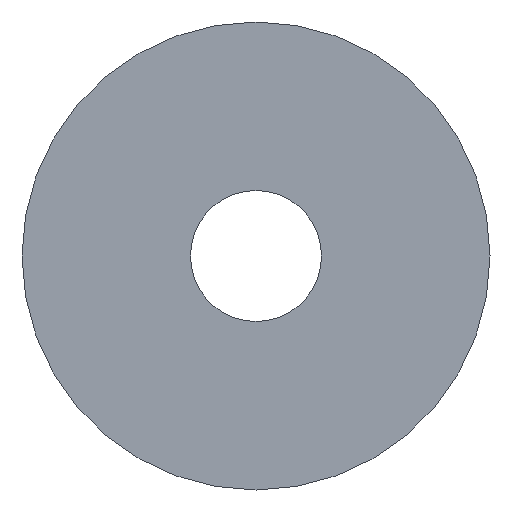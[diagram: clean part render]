
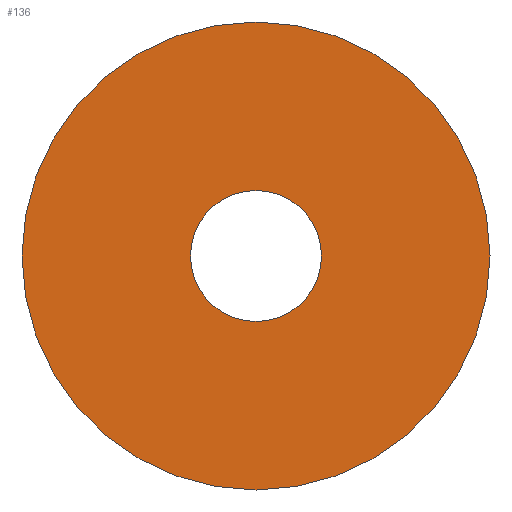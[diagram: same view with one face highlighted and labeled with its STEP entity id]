
A CAD part, front view. The second image highlights one B-rep face of the part: STEP entity #136.
In plain terms, the highlighted planar face has unit normal (0, -1, 0).
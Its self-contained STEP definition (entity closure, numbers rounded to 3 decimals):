
#8 = DIRECTION ( 'NONE',  ( 0., 0., 1. ) ) ;
#10 = VERTEX_POINT ( 'NONE', #41 ) ;
#11 = DIRECTION ( 'NONE',  ( 0., 0., 1. ) ) ;
#23 = DIRECTION ( 'NONE',  ( 0., 1., 0. ) ) ;
#29 = CIRCLE ( 'NONE', #100, 3.5 ) ;
#35 = AXIS2_PLACEMENT_3D ( 'NONE', #239, #23, #162 ) ;
#38 = EDGE_CURVE ( 'NONE', #69, #10, #118, .T. ) ;
#41 = CARTESIAN_POINT ( 'NONE',  ( 0., 0., 3.5 ) ) ;
#42 = EDGE_LOOP ( 'NONE', ( #226, #237 ) ) ;
#46 = AXIS2_PLACEMENT_3D ( 'NONE', #230, #63, #163 ) ;
#52 = EDGE_CURVE ( 'NONE', #110, #155, #81, .T. ) ;
#63 = DIRECTION ( 'NONE',  ( 0., 1., 0. ) ) ;
#66 = CARTESIAN_POINT ( 'NONE',  ( 0., 0., 0. ) ) ;
#69 = VERTEX_POINT ( 'NONE', #124 ) ;
#81 = CIRCLE ( 'NONE', #168, 12.5 ) ;
#82 = EDGE_CURVE ( 'NONE', #10, #69, #29, .T. ) ;
#95 = EDGE_CURVE ( 'NONE', #155, #110, #133, .T. ) ;
#100 = AXIS2_PLACEMENT_3D ( 'NONE', #214, #159, #11 ) ;
#103 = DIRECTION ( 'NONE',  ( 0., 0., 1. ) ) ;
#105 = CARTESIAN_POINT ( 'NONE',  ( 0., 0., 12.5 ) ) ;
#110 = VERTEX_POINT ( 'NONE', #235 ) ;
#118 = CIRCLE ( 'NONE', #46, 3.5 ) ;
#122 = FACE_BOUND ( 'NONE', #142, .T. ) ;
#124 = CARTESIAN_POINT ( 'NONE',  ( 0., 0., -3.5 ) ) ;
#126 = CARTESIAN_POINT ( 'NONE',  ( 0., 0., 0. ) ) ;
#133 = CIRCLE ( 'NONE', #220, 12.5 ) ;
#136 = ADVANCED_FACE ( 'NONE', ( #166, #122 ), #158, .F. ) ;
#142 = EDGE_LOOP ( 'NONE', ( #160, #165 ) ) ;
#143 = DIRECTION ( 'NONE',  ( 0., 1., 0. ) ) ;
#155 = VERTEX_POINT ( 'NONE', #105 ) ;
#158 = PLANE ( 'NONE',  #35 ) ;
#159 = DIRECTION ( 'NONE',  ( 0., 1., 0. ) ) ;
#160 = ORIENTED_EDGE ( 'NONE', *, *, #38, .T. ) ;
#162 = DIRECTION ( 'NONE',  ( 0., 0., 1. ) ) ;
#163 = DIRECTION ( 'NONE',  ( 0., 0., 1. ) ) ;
#165 = ORIENTED_EDGE ( 'NONE', *, *, #82, .T. ) ;
#166 = FACE_OUTER_BOUND ( 'NONE', #42, .T. ) ;
#168 = AXIS2_PLACEMENT_3D ( 'NONE', #126, #219, #8 ) ;
#214 = CARTESIAN_POINT ( 'NONE',  ( 0., 0., 0. ) ) ;
#219 = DIRECTION ( 'NONE',  ( 0., 1., 0. ) ) ;
#220 = AXIS2_PLACEMENT_3D ( 'NONE', #66, #143, #103 ) ;
#226 = ORIENTED_EDGE ( 'NONE', *, *, #52, .F. ) ;
#230 = CARTESIAN_POINT ( 'NONE',  ( 0., 0., 0. ) ) ;
#235 = CARTESIAN_POINT ( 'NONE',  ( 0., 0., -12.5 ) ) ;
#237 = ORIENTED_EDGE ( 'NONE', *, *, #95, .F. ) ;
#239 = CARTESIAN_POINT ( 'NONE',  ( 0., 0., 0. ) ) ;
